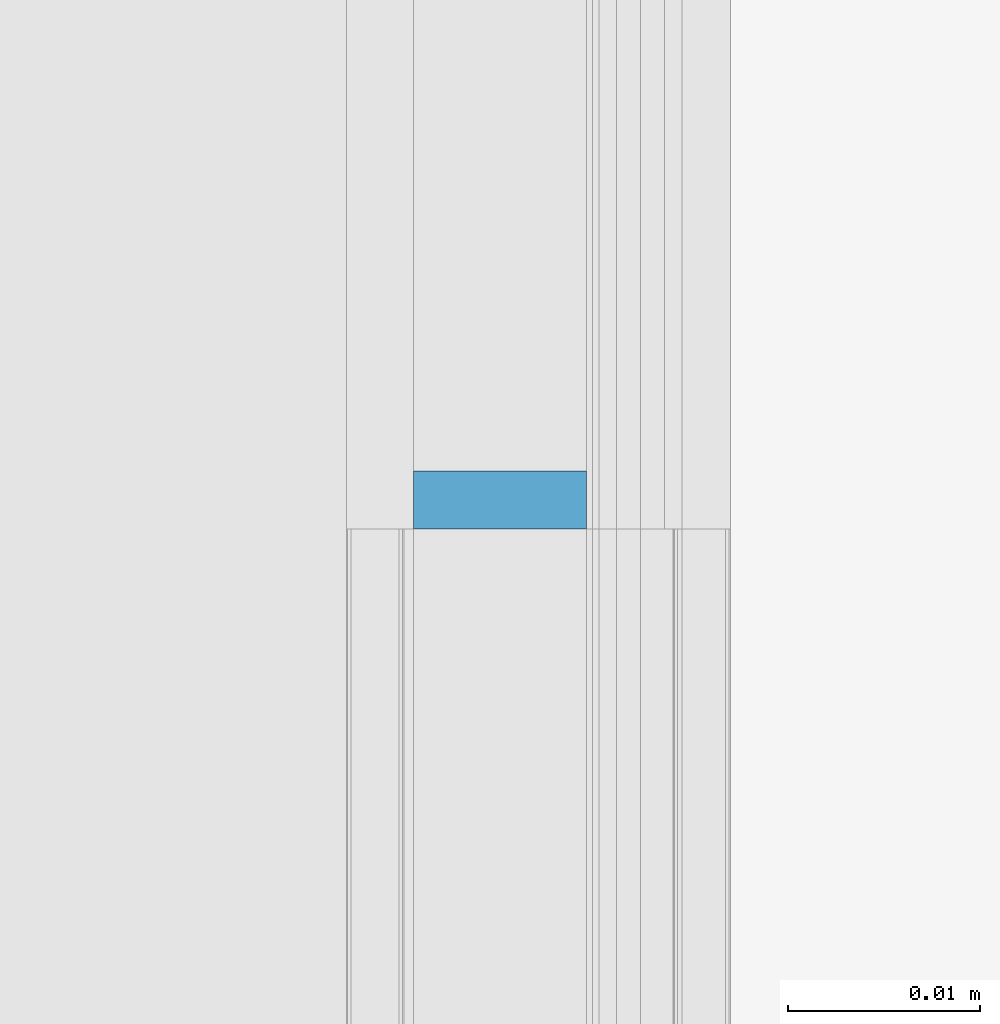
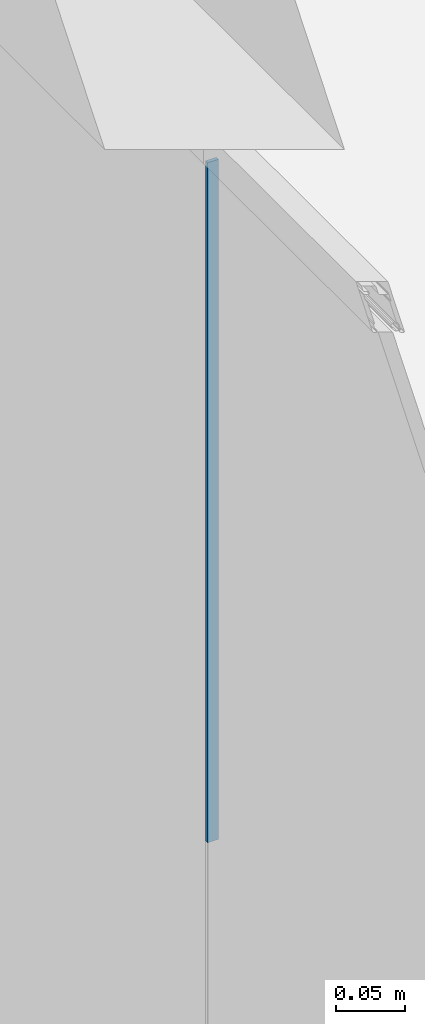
# One storey, part 17 of 387: 1 member, 1 element without a shape of its own.
"""IFC2X3 building model written with IfcOpenShell, lengths in millimetres."""

from ifc_helpers import new_model, entity, si_unit, converted_unit, derived_unit, money_unit, direction, frame, origin_with_axes, place, context, subcontext, project, spatial, polyline, outline, extrude, material, type_object, element, aggregate, save


model = new_model("IFC2X3")

# Units and contexts
model_context = context("Model", 3, precision=0.01, world=origin_with_axes(), true_north=direction((0.0, 1.0)))
body_context = subcontext(model_context, "Body", "Model", "MODEL_VIEW")
ifc_project = project(units=[si_unit("LENGTHUNIT", "METRE", prefix="MILLI"), si_unit("AREAUNIT", "SQUARE_METRE"), si_unit("VOLUMEUNIT", "CUBIC_METRE"), converted_unit("PLANEANGLEUNIT", "DEGREE", entity("IfcPlaneAngleMeasure", 0.0174532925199), si_unit("PLANEANGLEUNIT", "RADIAN"), dimensions=[0, 0, 0, 0, 0, 0, 0]), si_unit("SOLIDANGLEUNIT", "STERADIAN"), money_unit("EUR"), converted_unit("TIMEUNIT", "Year", entity("IfcTimeMeasure", 31556926.0), si_unit("TIMEUNIT", "SECOND"), dimensions=[0, 0, 1, 0, 0, 0, 0]), si_unit("MASSUNIT", "GRAM", prefix="KILO"), si_unit("THERMODYNAMICTEMPERATUREUNIT", "DEGREE_CELSIUS"), si_unit("LUMINOUSINTENSITYUNIT", "LUMEN"), si_unit("ENERGYUNIT", "JOULE", prefix="MEGA"), derived_unit("THERMALCONDUCTANCEUNIT", [(si_unit("POWERUNIT", "WATT"), 1), (si_unit("LENGTHUNIT", "METRE"), -1), (si_unit("THERMODYNAMICTEMPERATUREUNIT", "KELVIN"), -1)]), derived_unit("SPECIFICHEATCAPACITYUNIT", [(si_unit("ENERGYUNIT", "JOULE"), 1), (si_unit("MASSUNIT", "GRAM", prefix="KILO"), -1), (si_unit("THERMODYNAMICTEMPERATUREUNIT", "KELVIN"), -1)]), derived_unit("MASSDENSITYUNIT", [(si_unit("MASSUNIT", "GRAM", prefix="KILO"), 1), (si_unit("VOLUMEUNIT", "CUBIC_METRE"), -1)])], contexts=[model_context])

# Site, building, storey
site_placement = place(None, origin_with_axes())
site = spatial("IfcSite", under=ifc_project, at=site_placement, Name="Puškini 31, Narva", CompositionType="ELEMENT")
building_placement = place(site_placement, origin_with_axes())
building = spatial("IfcBuilding", under=site, at=building_placement, Name="Narva Riigigümnaasium", CompositionType="ELEMENT")
storey_placement = place(building_placement, frame((0.0, 0.0, 2640.0), z_axis=(0.0, 0.0, 1.0), x_axis=(1.0, 0.0, 0.0)))
storey = spatial("IfcBuildingStorey", under=building, at=storey_placement, Name="2.korrus +2.64", CompositionType="ELEMENT", Elevation=2640.0)

# Curtain wall, member
curtain_wall_type = type_object("IfcCurtainWallType", Name="Curtain Wall Type", PredefinedType="NOTDEFINED")
curtain_wall_placement = place(storey_placement, frame((28390.0000002, 176724.161139, -5.42380846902e-05), z_axis=(0.0, 0.0, 1.0), x_axis=(1.0, 0.0, 0.0)))
curtain_wall = element("IfcCurtainWall", 1, at=curtain_wall_placement, inside=storey, type_object=curtain_wall_type, Name="G-SKLF-12")
ifc_material = material(Name="VMR-03_Membraan - Veekindel")
member_type = type_object("IfcMemberType", Name="3 x -4", PredefinedType="MULLION")
member_placement = place(curtain_wall_placement, frame((-2.15969464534e-08, 1398.81089237, 2400.00005424), z_axis=(0.0, 0.0, 1.0), x_axis=(0.0, 1.0, 0.0)))
member = element("IfcMember", 2, at=member_placement, type_object=member_type, material=ifc_material, Name="G-SKLF-12-raam", ObjectType="MULLION", context=body_context, shape_type="SweptSolid", body=[
    extrude(outline(polyline([(-6.5, -1.13686837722e-10), (2.5, 0.0), (2.49999999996, 3.00000000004), (-6.50000000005, 2.9999999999), (-6.5, -1.13686837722e-10)])), frame((0.0, 0.0, 0.0), z_axis=(0.0, 0.0, 1.0), x_axis=(0.0, -1.0, 0.0)), (0.0, 0.0, 1.0), 599.999962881),
])
aggregate(curtain_wall, [member])

save(model, "model.ifc")
